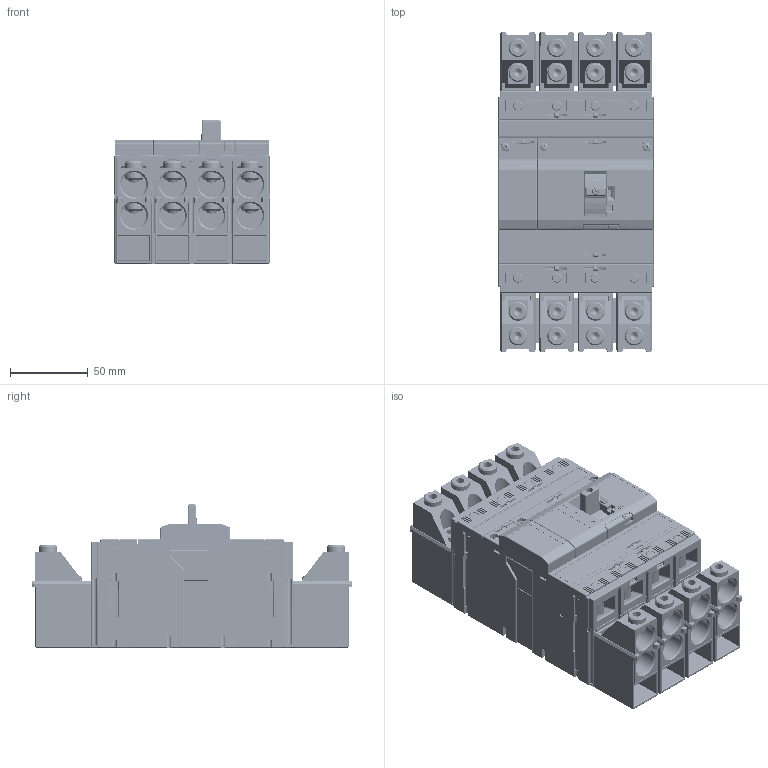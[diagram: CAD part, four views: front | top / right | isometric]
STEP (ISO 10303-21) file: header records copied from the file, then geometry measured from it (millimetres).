
FILE_DESCRIPTION (( 'STEP AP214' ), '1' );
FILE_NAME ('BC160NT405_406__CS-BC-B421_fin.step', '2013-05-20T13:57:17', ( '' ), ( '' ), 'SwSTEP 2.0', 'SolidWorks 2011', '' );
FILE_SCHEMA (( 'AUTOMOTIVE_DESIGN' ));
Length unit declared in the file: millimetre
Products named in the file (1): BC160NT405_406__CS-BC-B421_fin
Bounding box: 100 x 207 x 92.5 mm (x, y, z)
Volume: 1044060.1 mm3; surface area: 289375.4 mm2
Topology: 13 solids, 13 shells, 7316 faces, 19749 edges, 12514 vertices
Faces by surface type: plane 4017, cylinder 2021, bspline 592, cone 514, torus 100, sphere 72
Entity records: 347735 total; most frequent: CARTESIAN_POINT 93787, ORIENTED_EDGE 39262, DIRECTION 31283, EDGE_CURVE 19631, VECTOR 12823, LINE 12823, VERTEX_POINT 12496, AXIS2_PLACEMENT_3D 9230
